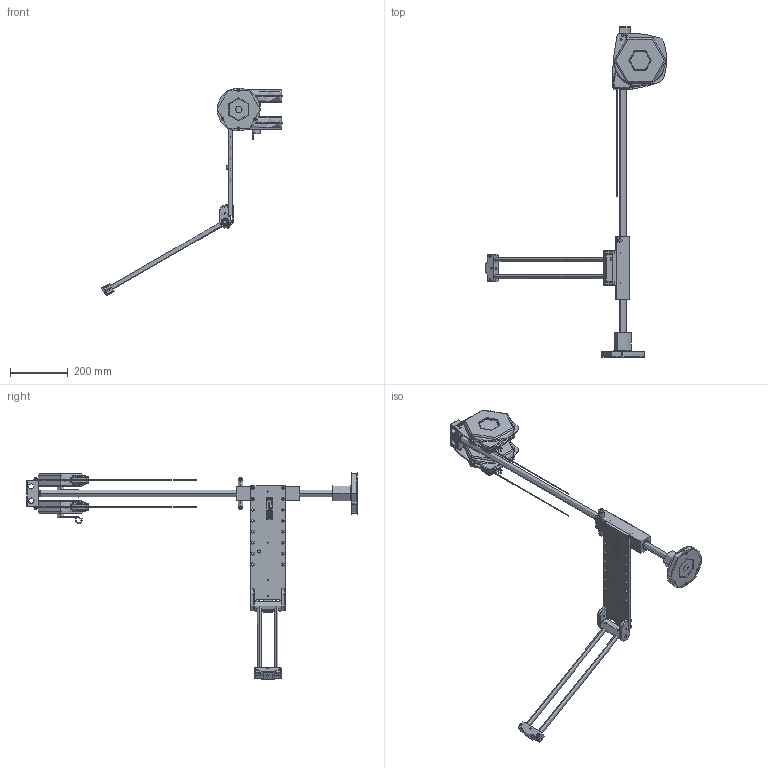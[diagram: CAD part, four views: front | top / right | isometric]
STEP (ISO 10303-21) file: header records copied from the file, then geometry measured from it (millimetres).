
FILE_DESCRIPTION((''),'2;1');
FILE_NAME('6158107100_ASM','2015-04-27T',('Greextfpav'),(''),'PRO/ENGINEER BY PARAMETRIC TECHNOLOGY CORPORATION, 2014200','PRO/ENGINEER BY PARAMETRIC TECHNOLOGY CORPORATION, 2014200','');
FILE_SCHEMA(('AUTOMOTIVE_DESIGN { 1 0 10303 214 1 1 1 1 }'));
Products named in the file (36): 6158107190; 6158107230; 2050384473; 2050384463; 2050384483; 6158107250; 6158107270; 2050384513; 6158107150_ASM; 6158107450; 2050384563; 6158107520; 6158107530; 6156160150; 6158714280; 6158107360_ASM; 6158108170; 6158108190; 6158108180; 8940168031; 6158108250; 6158107960; 6156160140; 6158108290; 6156190460; 6156160650; 6158108310; 6158108050; 6156161410; 6156160330; 6158714170; 6158108420; 6158108110_ASM; BALANCER_D; VIS_CHC-HEXAGON_SCREW; 6158107100_ASM
Assembly tree (58 placements, depth 3):
  6158107100_ASM
    6158107150_ASM
      6158107190
      6158107230
      2050384473
      2050384463  x2
      2050384483
      6158107250
      6158107270
      2050384513
    6158107360_ASM
      6158107450
      2050384563  x2
      6158107520  x2
      6158107530  x2
      6156160150  x2
      6158714280
    6158108110_ASM
      6158108170
      6158108190
      6158108180
      8940168031  x2
      6158108250
      6158107960  x2
      6156160140  x4
      6158108290
      6156190460  x3
      6156160650  x2
      6158108310  x2
      6158108050
      6156161410
      6156160330  x2
      6158714170
      6158108420
    BALANCER_D  x2
    6156160150  x4
    VIS_CHC-HEXAGON_SCREW  x4
Bounding box: 628 x 1147 x 722.46 mm (x, y, z)
Topology: 253 solids, 301 shells, 4734 faces, 12499 edges, 7794 vertices
Faces by surface type: extrusion 1623, plane 1590, cylinder 697, sphere 388, cone 240, torus 184, bspline 12
Entity records: 178054 total; most frequent: CARTESIAN_POINT 41302, ORIENTED_EDGE 20462, DIRECTION 15378, EDGE_CURVE 10322, PRESENTATION_STYLE_ASSIGNMENT 9770, STYLED_ITEM 9691, CURVE_STYLE 9482, VECTOR 6896
